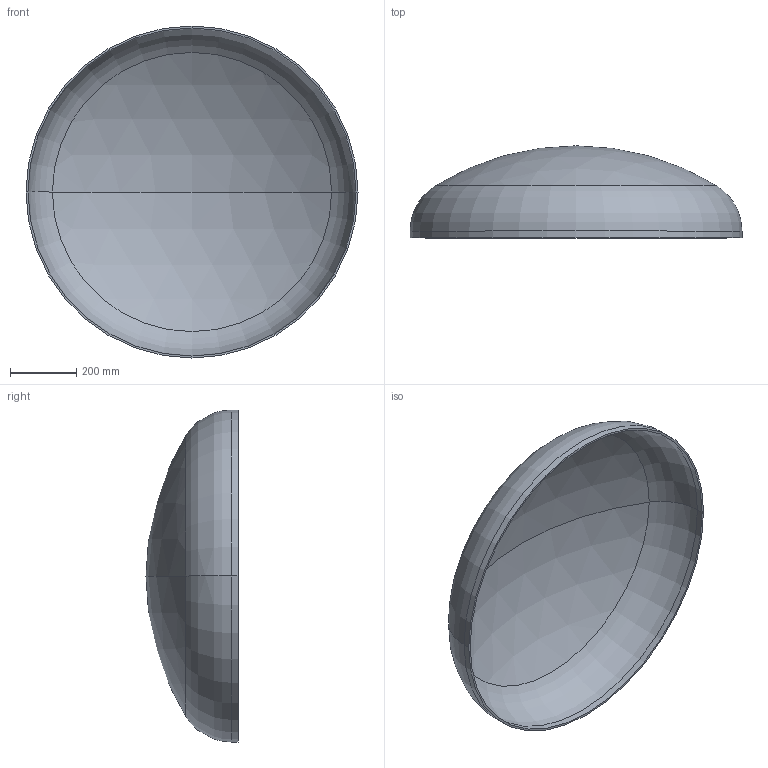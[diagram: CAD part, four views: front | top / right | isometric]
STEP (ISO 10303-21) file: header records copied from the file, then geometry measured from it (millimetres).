
FILE_DESCRIPTION (( 'STEP AP203' ), '1' );
FILE_NAME ('DIN 28013 Korbbogenform_-_Boden DIN 28013 - 1000 x 20 - I - s=6.step', '2016-07-01T08:41:11', ( '' ), ( '' ), 'SwSTEP 2.0', 'SolidWorks 2013', '' );
FILE_SCHEMA (( 'CONFIG_CONTROL_DESIGN' ));
Length unit declared in the file: millimetre
Products named in the file (1): DIN 28013 Korbbogenform_-_Boden DIN 28013 - 1000 x 20 - I - s=6
Bounding box: 1000 x 277.27 x 1000 mm (x, y, z)
Volume: 6858101.2 mm3; surface area: 2304844.7 mm2
Topology: 1 solids, 1 shells, 13 faces, 24 edges, 14 vertices
Faces by surface type: torus 4, cylinder 4, sphere 4, plane 1
Entity records: 407 total; most frequent: DIRECTION 72, CARTESIAN_POINT 52, ORIENTED_EDGE 48, AXIS2_PLACEMENT_3D 34, EDGE_CURVE 24, CIRCLE 20, EDGE_LOOP 14, VERTEX_POINT 14
